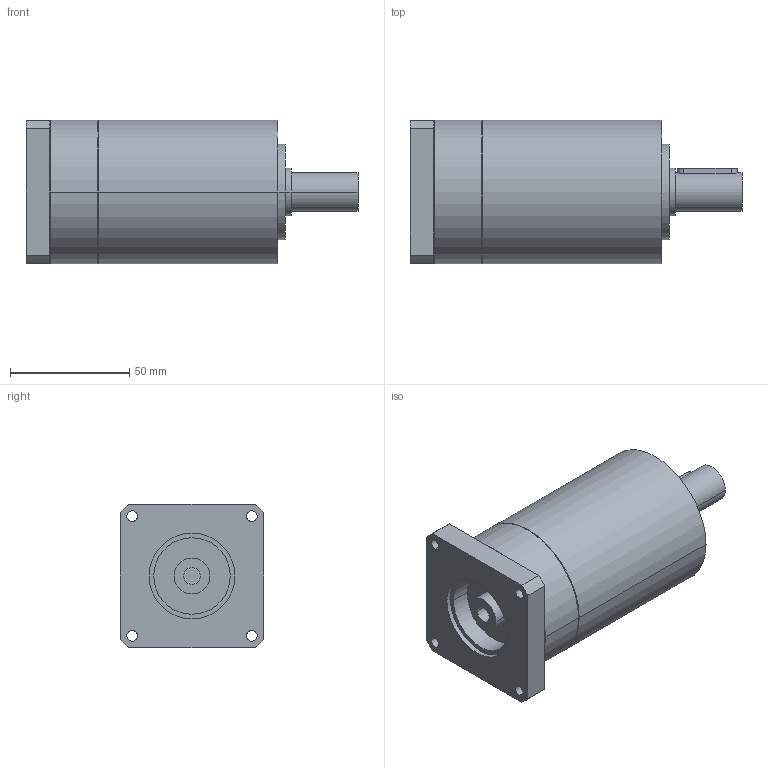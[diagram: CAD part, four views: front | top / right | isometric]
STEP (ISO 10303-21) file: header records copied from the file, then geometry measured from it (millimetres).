
FILE_DESCRIPTION(('CoCreate Modeling STEP Export'),'2;1');
FILE_NAME('GPR75_ig-9-12-16-20-24-30-36_16_B14_7_P22.stp','2014-08-25T16:05:32',(''),(''),'CoCreate Modeling STEP processor for AP214 (Solid Model)','CoCreate Modeling 16.00C 25-Feb-2009 (C) Parametric Technology GmbH','');
FILE_SCHEMA(('AUTOMOTIVE_DESIGN { 1 0 10303 214 1 1 1 1 }'));
Length unit declared in the file: millimetre
Products named in the file (2): GPR75_ig-9-12-16-20-24-30-36_16_B14_7_P22
Assembly tree (1 placements, depth 2):
  GPR75_ig-9-12-16-20-24-30-36_16_B14_7_P22
    GPR75_ig-9-12-16-20-24-30-36_16_B14_7_P22
Bounding box: 139 x 60 x 60 mm (x, y, z)
Volume: 306245.4 mm3; surface area: 36538.1 mm2
Topology: 1 solids, 1 shells, 73 faces, 197 edges, 139 vertices
Faces by surface type: cylinder 44, plane 23, cone 6
Entity records: 2019 total; most frequent: ORIENTED_EDGE 390, CARTESIAN_POINT 373, DIRECTION 272, EDGE_CURVE 195, VERTEX_POINT 139, AXIS2_PLACEMENT_3D 102, EDGE_LOOP 96, FACE_OUTER_BOUND 73
